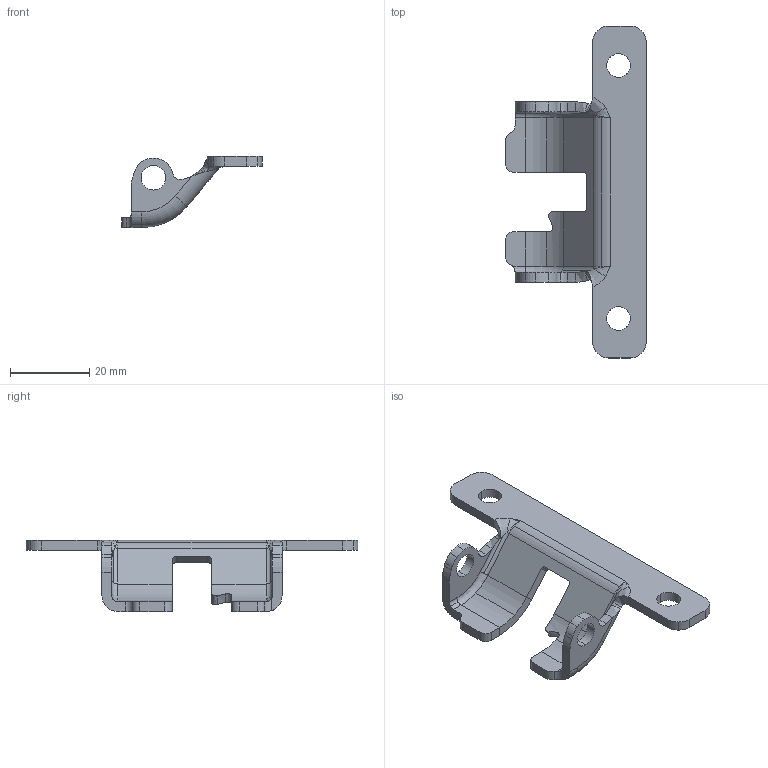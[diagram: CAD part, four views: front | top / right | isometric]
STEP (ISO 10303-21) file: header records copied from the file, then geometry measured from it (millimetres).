
FILE_DESCRIPTION(('CATIA V5 STEP Exchange'),'2;1');
FILE_NAME('E:\张磊\转盘自研\外发冻结数据图纸\3D\最新3D-20230510\2D\2022.11.18-单件图纸\SHT0015132-气动转盘解锁安装钣金\SHT0015132-B 20230724.stp','2023-07-24T06:55:10+00:00',('none'),('none'),'CATIA Version 5 Release 20 GA (IN-10)','CATIA V5 STEP AP214','none');
FILE_SCHEMA(('AUTOMOTIVE_DESIGN { 1 0 10303 214 1 1 1 1 }'));
Length unit declared in the file: millimetre
Products named in the file (1): Part7
Bounding box: 35.5 x 84 x 18 mm (x, y, z)
Volume: 5517.2 mm3; surface area: 5386.9 mm2
Topology: 1 solids, 1 shells, 124 faces, 331 edges, 205 vertices
Faces by surface type: cylinder 62, plane 35, bspline 19, torus 8
Entity records: 4495 total; most frequent: CARTESIAN_POINT 1664, ORIENTED_EDGE 654, DIRECTION 441, EDGE_CURVE 327, AXIS2_PLACEMENT_3D 210, VERTEX_POINT 205, VECTOR 139, LINE 139
